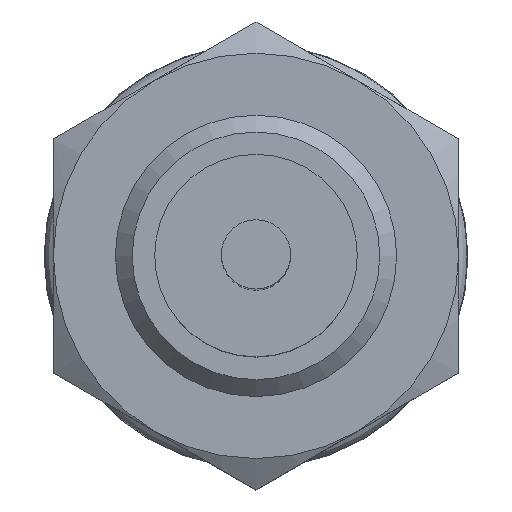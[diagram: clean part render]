
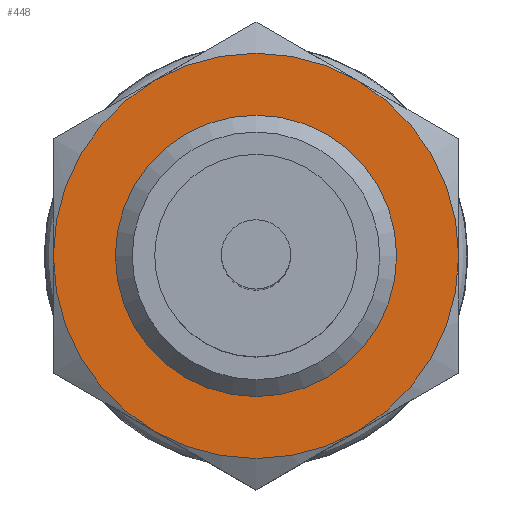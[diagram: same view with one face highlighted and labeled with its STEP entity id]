
A CAD part, top view. The second image highlights one B-rep face of the part: STEP entity #448.
In plain terms, the highlighted planar face has unit normal (0, 0, 1).
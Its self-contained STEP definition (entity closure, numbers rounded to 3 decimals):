
#448=ADVANCED_FACE('',(#563),#509,.T.);
#509=PLANE('',#1502);
#563=FACE_OUTER_BOUND('',#646,.T.);
#646=EDGE_LOOP('',(#916,#917,#918,#919,#920,#921));
#916=ORIENTED_EDGE('',*,*,#1276,.T.);
#917=ORIENTED_EDGE('',*,*,#1277,.T.);
#918=ORIENTED_EDGE('',*,*,#1278,.T.);
#919=ORIENTED_EDGE('',*,*,#1279,.T.);
#920=ORIENTED_EDGE('',*,*,#1280,.T.);
#921=ORIENTED_EDGE('',*,*,#1281,.T.);
#1118=VERTEX_POINT('',#2193);
#1119=VERTEX_POINT('',#2194);
#1120=VERTEX_POINT('',#2196);
#1121=VERTEX_POINT('',#2198);
#1122=VERTEX_POINT('',#2200);
#1123=VERTEX_POINT('',#2202);
#1276=EDGE_CURVE('',#1118,#1119,#1377,.T.);
#1277=EDGE_CURVE('',#1119,#1120,#1378,.T.);
#1278=EDGE_CURVE('',#1120,#1121,#1379,.T.);
#1279=EDGE_CURVE('',#1121,#1122,#1380,.T.);
#1280=EDGE_CURVE('',#1122,#1123,#1381,.T.);
#1281=EDGE_CURVE('',#1123,#1118,#1382,.T.);
#1377=CIRCLE('',#1496,12.);
#1378=CIRCLE('',#1497,12.);
#1379=CIRCLE('',#1498,12.);
#1380=CIRCLE('',#1499,12.);
#1381=CIRCLE('',#1500,12.);
#1382=CIRCLE('',#1501,12.);
#1496=AXIS2_PLACEMENT_3D('',#2192,#1811,#1812);
#1497=AXIS2_PLACEMENT_3D('',#2195,#1813,#1814);
#1498=AXIS2_PLACEMENT_3D('',#2197,#1815,#1816);
#1499=AXIS2_PLACEMENT_3D('',#2199,#1817,#1818);
#1500=AXIS2_PLACEMENT_3D('',#2201,#1819,#1820);
#1501=AXIS2_PLACEMENT_3D('',#2203,#1821,#1822);
#1502=AXIS2_PLACEMENT_3D('',#2204,#1823,#1824);
#1811=DIRECTION('',(0.,0.,1.));
#1812=DIRECTION('',(0.,1.,0.));
#1813=DIRECTION('',(0.,0.,1.));
#1814=DIRECTION('',(0.,1.,0.));
#1815=DIRECTION('',(0.,0.,1.));
#1816=DIRECTION('',(0.,1.,0.));
#1817=DIRECTION('',(0.,0.,1.));
#1818=DIRECTION('',(0.,1.,0.));
#1819=DIRECTION('',(0.,0.,1.));
#1820=DIRECTION('',(0.,1.,0.));
#1821=DIRECTION('',(0.,0.,1.));
#1822=DIRECTION('',(0.,1.,0.));
#1823=DIRECTION('',(0.,0.,1.));
#1824=DIRECTION('',(0.,1.,0.));
#2192=CARTESIAN_POINT('',(0.,0.,7.));
#2193=CARTESIAN_POINT('',(-5.998,10.393,7.));
#2194=CARTESIAN_POINT('',(-12.,0.,7.));
#2195=CARTESIAN_POINT('',(0.,0.,7.));
#2196=CARTESIAN_POINT('',(-5.998,-10.393,7.));
#2197=CARTESIAN_POINT('',(0.,0.,7.));
#2198=CARTESIAN_POINT('',(5.998,-10.393,7.));
#2199=CARTESIAN_POINT('',(0.,0.,7.));
#2200=CARTESIAN_POINT('',(12.,0.,7.));
#2201=CARTESIAN_POINT('',(0.,0.,7.));
#2202=CARTESIAN_POINT('',(5.998,10.393,7.));
#2203=CARTESIAN_POINT('',(0.,0.,7.));
#2204=CARTESIAN_POINT('',(0.,0.,7.));
